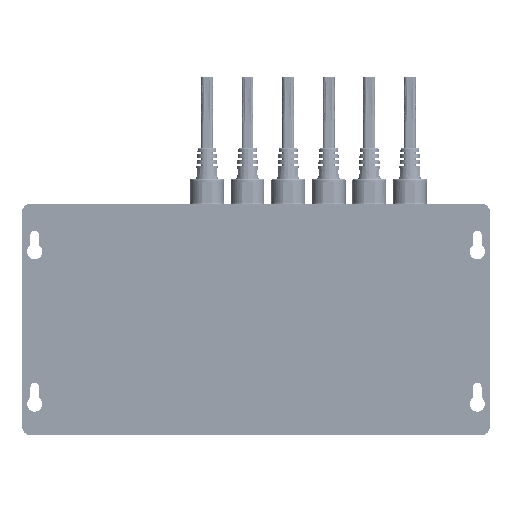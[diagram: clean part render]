
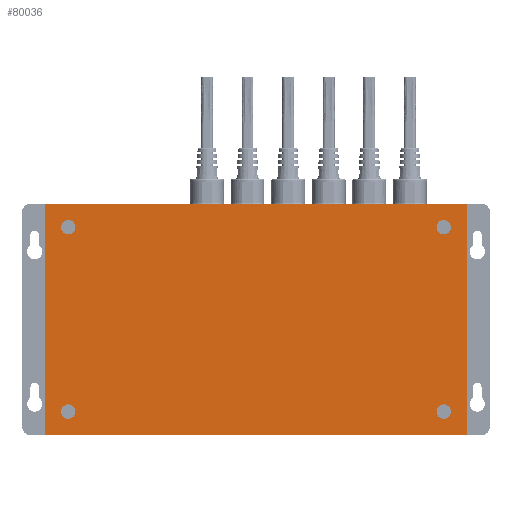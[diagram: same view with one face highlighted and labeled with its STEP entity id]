
A CAD part, front view. The second image highlights one B-rep face of the part: STEP entity #80036.
In plain terms, the highlighted planar face has unit normal (0, -1, 0).
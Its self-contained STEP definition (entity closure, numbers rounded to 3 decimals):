
#70394=DIRECTION('',(1.,0.,0.));
#70395=VECTOR('',#70394,15.873);
#70396=CARTESIAN_POINT('',(-124.873,-50.,-68.373));
#70397=LINE('',#70396,#70395);
#70422=DIRECTION('',(1.,0.,0.));
#70423=VECTOR('',#70422,15.873);
#70424=CARTESIAN_POINT('',(-124.873,-50.,68.373));
#70425=LINE('',#70424,#70423);
#70467=DIRECTION('',(1.,0.,0.));
#70468=VECTOR('',#70467,218.);
#70469=CARTESIAN_POINT('',(-109.,-50.,
68.373));
#70470=LINE('',#70469,#70468);
#70721=DIRECTION('',(1.,0.,0.));
#70722=VECTOR('',#70721,15.873);
#70723=CARTESIAN_POINT('',(109.,-50.,
68.373));
#70724=LINE('',#70723,#70722);
#70753=DIRECTION('',(1.,0.,0.));
#70754=VECTOR('',#70753,15.873);
#70755=CARTESIAN_POINT('',(109.,-50.,
-68.373));
#70756=LINE('',#70755,#70754);
#70802=DIRECTION('',(-1.,0.,0.));
#70803=VECTOR('',#70802,218.);
#70804=CARTESIAN_POINT('',(109.,-50.,
-68.373));
#70805=LINE('',#70804,#70803);
#70806=CARTESIAN_POINT('',(-111.,-50.,-54.5));
#70807=DIRECTION('',(0.,-1.,0.));
#70808=DIRECTION('',(-1.,0.,0.));
#70809=AXIS2_PLACEMENT_3D('',#70806,#70807,#70808);
#70811=CARTESIAN_POINT('',(-111.,-50.,-54.5));
#70812=DIRECTION('',(0.,-1.,0.));
#70813=DIRECTION('',(1.,0.,0.));
#70814=AXIS2_PLACEMENT_3D('',#70811,#70812,#70813);
#70816=CARTESIAN_POINT('',(-111.,-50.,54.5));
#70817=DIRECTION('',(0.,-1.,0.));
#70818=DIRECTION('',(-1.,0.,0.));
#70819=AXIS2_PLACEMENT_3D('',#70816,#70817,#70818);
#70821=CARTESIAN_POINT('',(-111.,-50.,54.5));
#70822=DIRECTION('',(0.,-1.,0.));
#70823=DIRECTION('',(1.,0.,0.));
#70824=AXIS2_PLACEMENT_3D('',#70821,#70822,#70823);
#70826=CARTESIAN_POINT('',(111.,-50.,-54.5));
#70827=DIRECTION('',(0.,-1.,0.));
#70828=DIRECTION('',(-1.,0.,0.));
#70829=AXIS2_PLACEMENT_3D('',#70826,#70827,#70828);
#70831=CARTESIAN_POINT('',(111.,-50.,-54.5));
#70832=DIRECTION('',(0.,-1.,0.));
#70833=DIRECTION('',(1.,0.,0.));
#70834=AXIS2_PLACEMENT_3D('',#70831,#70832,#70833);
#70836=CARTESIAN_POINT('',(111.,-50.,54.5));
#70837=DIRECTION('',(0.,-1.,0.));
#70838=DIRECTION('',(-1.,0.,0.));
#70839=AXIS2_PLACEMENT_3D('',#70836,#70837,#70838);
#70841=CARTESIAN_POINT('',(111.,-50.,54.5));
#70842=DIRECTION('',(0.,-1.,0.));
#70843=DIRECTION('',(1.,0.,0.));
#70844=AXIS2_PLACEMENT_3D('',#70841,#70842,#70843);
#70846=DIRECTION('',(0.,0.,1.));
#70847=VECTOR('',#70846,136.746);
#70848=CARTESIAN_POINT('',(124.873,-50.,-68.373));
#70849=LINE('',#70848,#70847);
#70996=DIRECTION('',(0.,0.,1.));
#70997=VECTOR('',#70996,136.746);
#70998=CARTESIAN_POINT('',(-124.873,-50.,-68.373));
#70999=LINE('',#70998,#70997);
#77096=CARTESIAN_POINT('',(-109.,-50.,
-68.373));
#77098=VERTEX_POINT('',#77096);
#77099=CARTESIAN_POINT('',(-109.,-50.,
68.373));
#77101=VERTEX_POINT('',#77099);
#77104=CARTESIAN_POINT('',(109.,-50.,
68.373));
#77106=VERTEX_POINT('',#77104);
#77107=CARTESIAN_POINT('',(109.,-50.,
-68.373));
#77109=VERTEX_POINT('',#77107);
#77332=CARTESIAN_POINT('',(124.873,-50.,-68.373));
#77333=CARTESIAN_POINT('',(124.873,-50.,68.373));
#77334=VERTEX_POINT('',#77332);
#77335=VERTEX_POINT('',#77333);
#77336=CARTESIAN_POINT('',(-124.873,-50.,68.373));
#77337=VERTEX_POINT('',#77336);
#77338=CARTESIAN_POINT('',(-124.873,-50.,-68.373));
#77339=VERTEX_POINT('',#77338);
#77340=CARTESIAN_POINT('',(-115.25,-50.,-54.5));
#77341=CARTESIAN_POINT('',(-106.75,-50.,-54.5));
#77342=VERTEX_POINT('',#77340);
#77343=VERTEX_POINT('',#77341);
#77344=CARTESIAN_POINT('',(-115.25,-50.,54.5));
#77345=CARTESIAN_POINT('',(-106.75,-50.,54.5));
#77346=VERTEX_POINT('',#77344);
#77347=VERTEX_POINT('',#77345);
#77348=CARTESIAN_POINT('',(106.75,-50.,-54.5));
#77349=CARTESIAN_POINT('',(115.25,-50.,-54.5));
#77350=VERTEX_POINT('',#77348);
#77351=VERTEX_POINT('',#77349);
#77352=CARTESIAN_POINT('',(106.75,-50.,54.5));
#77353=CARTESIAN_POINT('',(115.25,-50.,54.5));
#77354=VERTEX_POINT('',#77352);
#77355=VERTEX_POINT('',#77353);
#79995=CARTESIAN_POINT('',(0.,-50.,0.));
#79996=DIRECTION('',(0.,1.,0.));
#79997=DIRECTION('',(1.,0.,0.));
#79998=AXIS2_PLACEMENT_3D('',#79995,#79996,#79997);
#79999=PLANE('',#79998);
#80001=ORIENTED_EDGE('',*,*,#80000,.F.);
#80002=ORIENTED_EDGE('',*,*,#79944,.F.);
#80003=ORIENTED_EDGE('',*,*,#79479,.T.);
#80004=ORIENTED_EDGE('',*,*,#79611,.F.);
#80006=ORIENTED_EDGE('',*,*,#80005,.T.);
#80007=ORIENTED_EDGE('',*,*,#79667,.T.);
#80008=ORIENTED_EDGE('',*,*,#79726,.T.);
#80009=ORIENTED_EDGE('',*,*,#79886,.T.);
#80010=EDGE_LOOP('',(#80001,#80002,#80003,#80004,#80006,#80007,#80008,#80009));
#80011=FACE_OUTER_BOUND('',#80010,.F.);
#80013=ORIENTED_EDGE('',*,*,#80012,.T.);
#80015=ORIENTED_EDGE('',*,*,#80014,.T.);
#80016=EDGE_LOOP('',(#80013,#80015));
#80017=FACE_BOUND('',#80016,.F.);
#80019=ORIENTED_EDGE('',*,*,#80018,.T.);
#80021=ORIENTED_EDGE('',*,*,#80020,.T.);
#80022=EDGE_LOOP('',(#80019,#80021));
#80023=FACE_BOUND('',#80022,.F.);
#80025=ORIENTED_EDGE('',*,*,#80024,.T.);
#80027=ORIENTED_EDGE('',*,*,#80026,.T.);
#80028=EDGE_LOOP('',(#80025,#80027));
#80029=FACE_BOUND('',#80028,.F.);
#80031=ORIENTED_EDGE('',*,*,#80030,.T.);
#80033=ORIENTED_EDGE('',*,*,#80032,.T.);
#80034=EDGE_LOOP('',(#80031,#80033));
#80035=FACE_BOUND('',#80034,.F.);
#80036=ADVANCED_FACE('',(#80011,#80017,#80023,#80029,#80035),#79999,.F.);
#70810=CIRCLE('',#70809,4.25);
#70815=CIRCLE('',#70814,4.25);
#70820=CIRCLE('',#70819,4.25);
#70825=CIRCLE('',#70824,4.25);
#70830=CIRCLE('',#70829,4.25);
#70835=CIRCLE('',#70834,4.25);
#70840=CIRCLE('',#70839,4.25);
#70845=CIRCLE('',#70844,4.25);
#79479=EDGE_CURVE('',#77109,#77098,#70805,.T.);
#79611=EDGE_CURVE('',#77339,#77098,#70397,.T.);
#79667=EDGE_CURVE('',#77337,#77101,#70425,.T.);
#79726=EDGE_CURVE('',#77101,#77106,#70470,.T.);
#79886=EDGE_CURVE('',#77106,#77335,#70724,.T.);
#79944=EDGE_CURVE('',#77109,#77334,#70756,.T.);
#80000=EDGE_CURVE('',#77334,#77335,#70849,.T.);
#80005=EDGE_CURVE('',#77339,#77337,#70999,.T.);
#80012=EDGE_CURVE('',#77342,#77343,#70810,.T.);
#80014=EDGE_CURVE('',#77343,#77342,#70815,.T.);
#80018=EDGE_CURVE('',#77346,#77347,#70820,.T.);
#80020=EDGE_CURVE('',#77347,#77346,#70825,.T.);
#80024=EDGE_CURVE('',#77350,#77351,#70830,.T.);
#80026=EDGE_CURVE('',#77351,#77350,#70835,.T.);
#80030=EDGE_CURVE('',#77354,#77355,#70840,.T.);
#80032=EDGE_CURVE('',#77355,#77354,#70845,.T.);
